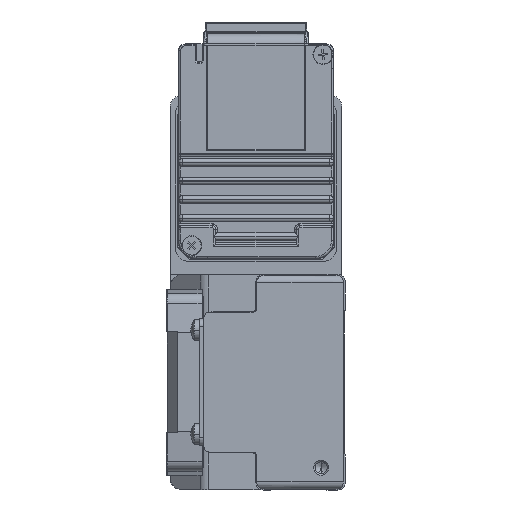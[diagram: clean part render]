
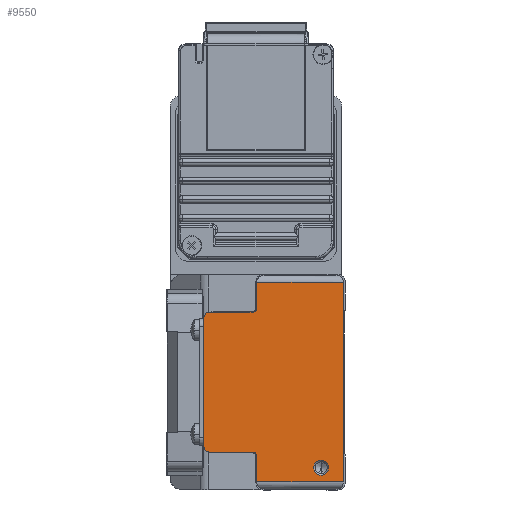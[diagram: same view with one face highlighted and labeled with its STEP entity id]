
A CAD part, left-side view. The second image highlights one B-rep face of the part: STEP entity #9550.
In plain terms, the highlighted planar face has unit normal (-1, 0, 0) as drawn and (0, 0, 1) by its records, which use the part's own axes.
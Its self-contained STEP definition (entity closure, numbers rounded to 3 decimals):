
#41 = ORIENTED_EDGE ( 'NONE', *, *, #24390, .T. ) ;
#403 = CARTESIAN_POINT ( 'NONE',  ( 26.8, 23.8, 570. ) ) ;
#490 = CARTESIAN_POINT ( 'NONE',  ( -17.3, 36.5, 570. ) ) ;
#659 = DIRECTION ( 'NONE',  ( 0., 0., 1. ) ) ;
#705 = CARTESIAN_POINT ( 'NONE',  ( -26.8, 21.8, 570. ) ) ;
#2001 = ORIENTED_EDGE ( 'NONE', *, *, #26123, .T. ) ;
#3039 = LINE ( 'NONE', #3511, #5942 ) ;
#3115 = EDGE_CURVE ( 'NONE', #43040, #6337, #31969, .T. ) ;
#3144 = VERTEX_POINT ( 'NONE', #23028 ) ;
#3303 = VERTEX_POINT ( 'NONE', #13843 ) ;
#3388 = AXIS2_PLACEMENT_3D ( 'NONE', #490, #17978, #28712 ) ;
#3511 = CARTESIAN_POINT ( 'NONE',  ( -26.8, 0.5, 570. ) ) ;
#3541 = EDGE_CURVE ( 'NONE', #3303, #3144, #29142, .T. ) ;
#3967 = ORIENTED_EDGE ( 'NONE', *, *, #40200, .T. ) ;
#3984 = ORIENTED_EDGE ( 'NONE', *, *, #3115, .T. ) ;
#4134 = ORIENTED_EDGE ( 'NONE', *, *, #8784, .T. ) ;
#4162 = EDGE_CURVE ( 'NONE', #20961, #19950, #18848, .T. ) ;
#4966 = DIRECTION ( 'NONE',  ( 0., -1., 0. ) ) ;
#5036 = DIRECTION ( 'NONE',  ( -1., 0., 0. ) ) ;
#5078 = ORIENTED_EDGE ( 'NONE', *, *, #26420, .T. ) ;
#5148 = EDGE_LOOP ( 'NONE', ( #41, #8840, #5078, #29725, #19429, #45415, #4134, #6893, #8695, #3984, #2001, #42295 ) ) ;
#5721 = CARTESIAN_POINT ( 'NONE',  ( 18.8, 36.5, 570. ) ) ;
#5907 = VECTOR ( 'NONE', #31814, 1000. ) ;
#5942 = VECTOR ( 'NONE', #17115, 1000. ) ;
#6239 = DIRECTION ( 'NONE',  ( 1., 0., 0. ) ) ;
#6280 = DIRECTION ( 'NONE',  ( -1., 0., 0. ) ) ;
#6282 = EDGE_LOOP ( 'NONE', ( #3967, #20811 ) ) ;
#6337 = VERTEX_POINT ( 'NONE', #30338 ) ;
#6893 = ORIENTED_EDGE ( 'NONE', *, *, #36170, .F. ) ;
#7180 = CARTESIAN_POINT ( 'NONE',  ( -23., 6.5, 570. ) ) ;
#7254 = EDGE_CURVE ( 'NONE', #9511, #27970, #42726, .T. ) ;
#7282 = DIRECTION ( 'NONE',  ( -1., 0., 0. ) ) ;
#7795 = DIRECTION ( 'NONE',  ( 0., 0., 1. ) ) ;
#8014 = VERTEX_POINT ( 'NONE', #10862 ) ;
#8695 = ORIENTED_EDGE ( 'NONE', *, *, #31885, .T. ) ;
#8784 = EDGE_CURVE ( 'NONE', #19438, #13965, #31107, .T. ) ;
#8840 = ORIENTED_EDGE ( 'NONE', *, *, #29628, .F. ) ;
#9511 = VERTEX_POINT ( 'NONE', #28705 ) ;
#9550 = ADVANCED_FACE ( 'NONE', ( #22760, #36789 ), #42974, .T. ) ;
#9652 = CIRCLE ( 'NONE', #19971, 2. ) ;
#10138 = EDGE_CURVE ( 'NONE', #19438, #27692, #11862, .T. ) ;
#10862 = CARTESIAN_POINT ( 'NONE',  ( -18.8, 24.8, 570. ) ) ;
#11250 = CARTESIAN_POINT ( 'NONE',  ( -26.8, 24., 570. ) ) ;
#11862 = LINE ( 'NONE', #14856, #45219 ) ;
#13116 = VECTOR ( 'NONE', #4966, 1000. ) ;
#13487 = LINE ( 'NONE', #38072, #44741 ) ;
#13843 = CARTESIAN_POINT ( 'NONE',  ( -21., 6.5, 570. ) ) ;
#13965 = VERTEX_POINT ( 'NONE', #25033 ) ;
#14856 = CARTESIAN_POINT ( 'NONE',  ( 26.8, 24., 570. ) ) ;
#15183 = AXIS2_PLACEMENT_3D ( 'NONE', #705, #7795, #25522 ) ;
#15842 = CARTESIAN_POINT ( 'NONE',  ( 18.8, 24.8, 570. ) ) ;
#16696 = CARTESIAN_POINT ( 'NONE',  ( -26.8, 0.5, 570. ) ) ;
#17115 = DIRECTION ( 'NONE',  ( 1., 0., 0. ) ) ;
#17580 = LINE ( 'NONE', #20586, #5907 ) ;
#17926 = CIRCLE ( 'NONE', #30381, 1. ) ;
#17978 = DIRECTION ( 'NONE',  ( 0., 0., 1. ) ) ;
#18694 = LINE ( 'NONE', #29437, #25464 ) ;
#18848 = CIRCLE ( 'NONE', #3388, 1.5 ) ;
#19429 = ORIENTED_EDGE ( 'NONE', *, *, #34853, .T. ) ;
#19438 = VERTEX_POINT ( 'NONE', #403 ) ;
#19906 = CARTESIAN_POINT ( 'NONE',  ( -18.8, 36.5, 570. ) ) ;
#19950 = VERTEX_POINT ( 'NONE', #19906 ) ;
#19971 = AXIS2_PLACEMENT_3D ( 'NONE', #7180, #27872, #21270 ) ;
#20339 = CARTESIAN_POINT ( 'NONE',  ( 19.8, 24.8, 570. ) ) ;
#20586 = CARTESIAN_POINT ( 'NONE',  ( -19.8, 23.8, 570. ) ) ;
#20811 = ORIENTED_EDGE ( 'NONE', *, *, #3541, .T. ) ;
#20961 = VERTEX_POINT ( 'NONE', #29512 ) ;
#21270 = DIRECTION ( 'NONE',  ( -1., 0., 0. ) ) ;
#22760 = FACE_BOUND ( 'NONE', #6282, .T. ) ;
#23028 = CARTESIAN_POINT ( 'NONE',  ( -25., 6.5, 570. ) ) ;
#24368 = CARTESIAN_POINT ( 'NONE',  ( -19.8, 24.8, 570. ) ) ;
#24390 = EDGE_CURVE ( 'NONE', #19950, #8014, #40355, .T. ) ;
#24515 = AXIS2_PLACEMENT_3D ( 'NONE', #24368, #659, #38386 ) ;
#24737 = VECTOR ( 'NONE', #6280, 1000. ) ;
#25033 = CARTESIAN_POINT ( 'NONE',  ( 19.8, 23.8, 570. ) ) ;
#25257 = DIRECTION ( 'NONE',  ( 0., -1., 0. ) ) ;
#25464 = VECTOR ( 'NONE', #32691, 1000. ) ;
#25522 = DIRECTION ( 'NONE',  ( 1., 0., 0. ) ) ;
#26123 = EDGE_CURVE ( 'NONE', #6337, #20961, #13487, .T. ) ;
#26420 = EDGE_CURVE ( 'NONE', #37330, #9511, #17580, .T. ) ;
#26939 = DIRECTION ( 'NONE',  ( 0., 0., 1. ) ) ;
#27132 = DIRECTION ( 'NONE',  ( 0., 0., 1. ) ) ;
#27186 = VECTOR ( 'NONE', #25257, 1000. ) ;
#27692 = VERTEX_POINT ( 'NONE', #35370 ) ;
#27872 = DIRECTION ( 'NONE',  ( 0., 0., -1. ) ) ;
#27970 = VERTEX_POINT ( 'NONE', #16696 ) ;
#28373 = DIRECTION ( 'NONE',  ( 0., -1., 0. ) ) ;
#28705 = CARTESIAN_POINT ( 'NONE',  ( -26.8, 23.8, 570. ) ) ;
#28712 = DIRECTION ( 'NONE',  ( 1., 0., 0. ) ) ;
#29142 = CIRCLE ( 'NONE', #43110, 2. ) ;
#29437 = CARTESIAN_POINT ( 'NONE',  ( 18.8, 24.8, 570. ) ) ;
#29512 = CARTESIAN_POINT ( 'NONE',  ( -17.3, 38., 570. ) ) ;
#29610 = CARTESIAN_POINT ( 'NONE',  ( -19.8, 23.8, 570. ) ) ;
#29628 = EDGE_CURVE ( 'NONE', #37330, #8014, #40655, .T. ) ;
#29725 = ORIENTED_EDGE ( 'NONE', *, *, #7254, .T. ) ;
#30136 = CARTESIAN_POINT ( 'NONE',  ( 17.3, 36.5, 570. ) ) ;
#30338 = CARTESIAN_POINT ( 'NONE',  ( 17.3, 38., 570. ) ) ;
#30381 = AXIS2_PLACEMENT_3D ( 'NONE', #20339, #26939, #37768 ) ;
#31107 = LINE ( 'NONE', #34111, #24737 ) ;
#31252 = DIRECTION ( 'NONE',  ( 0., 0., -1. ) ) ;
#31814 = DIRECTION ( 'NONE',  ( -1., 0., 0. ) ) ;
#31885 = EDGE_CURVE ( 'NONE', #43015, #43040, #18694, .T. ) ;
#31969 = CIRCLE ( 'NONE', #34874, 1.5 ) ;
#32691 = DIRECTION ( 'NONE',  ( 0., 1., 0. ) ) ;
#34111 = CARTESIAN_POINT ( 'NONE',  ( 26.8, 23.8, 570. ) ) ;
#34853 = EDGE_CURVE ( 'NONE', #27970, #27692, #3039, .T. ) ;
#34874 = AXIS2_PLACEMENT_3D ( 'NONE', #30136, #27132, #6239 ) ;
#35370 = CARTESIAN_POINT ( 'NONE',  ( 26.8, 0.5, 570. ) ) ;
#36170 = EDGE_CURVE ( 'NONE', #43015, #13965, #17926, .T. ) ;
#36789 = FACE_OUTER_BOUND ( 'NONE', #5148, .T. ) ;
#37149 = CARTESIAN_POINT ( 'NONE',  ( -18.8, 36.5, 570. ) ) ;
#37330 = VERTEX_POINT ( 'NONE', #29610 ) ;
#37768 = DIRECTION ( 'NONE',  ( 1., 0., 0. ) ) ;
#38072 = CARTESIAN_POINT ( 'NONE',  ( 17.3, 38., 570. ) ) ;
#38386 = DIRECTION ( 'NONE',  ( 1., 0., 0. ) ) ;
#40200 = EDGE_CURVE ( 'NONE', #3144, #3303, #9652, .T. ) ;
#40355 = LINE ( 'NONE', #37149, #13116 ) ;
#40655 = CIRCLE ( 'NONE', #24515, 1. ) ;
#42295 = ORIENTED_EDGE ( 'NONE', *, *, #4162, .T. ) ;
#42726 = LINE ( 'NONE', #11250, #27186 ) ;
#42974 = PLANE ( 'NONE',  #15183 ) ;
#43015 = VERTEX_POINT ( 'NONE', #15842 ) ;
#43040 = VERTEX_POINT ( 'NONE', #5721 ) ;
#43110 = AXIS2_PLACEMENT_3D ( 'NONE', #45258, #31252, #7282 ) ;
#44741 = VECTOR ( 'NONE', #5036, 1000. ) ;
#45219 = VECTOR ( 'NONE', #28373, 1000. ) ;
#45258 = CARTESIAN_POINT ( 'NONE',  ( -23., 6.5, 570. ) ) ;
#45415 = ORIENTED_EDGE ( 'NONE', *, *, #10138, .F. ) ;
